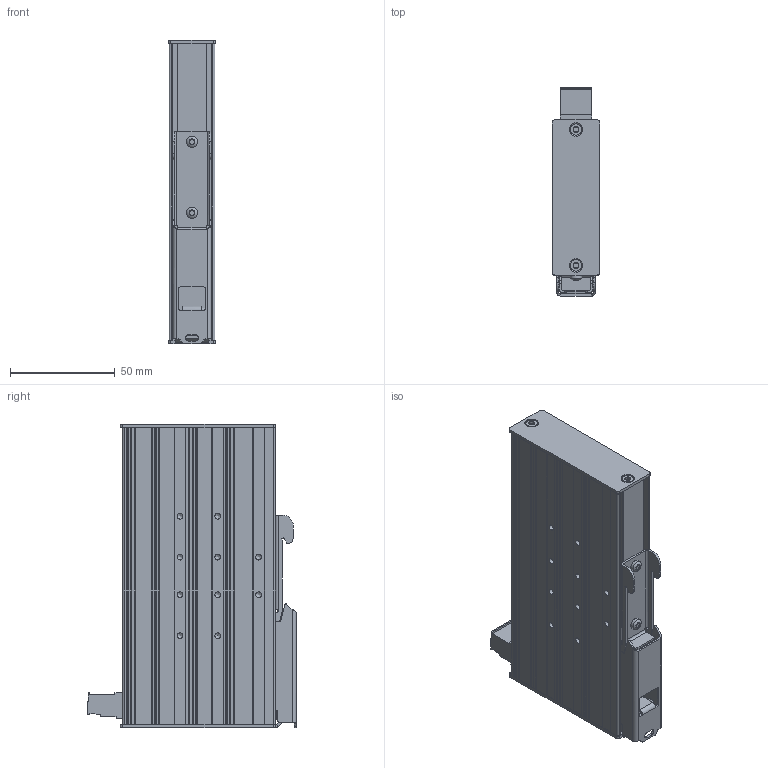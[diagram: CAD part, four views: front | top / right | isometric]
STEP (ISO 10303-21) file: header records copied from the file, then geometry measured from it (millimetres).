
FILE_DESCRIPTION(('TFLEX Exchange Step'),'2;1');
FILE_NAME('TZCA21160XB_NITE-RS8-1100.stp', '2019-08-12T10:52:25+02:00',('User'),('Unknown organisation'),'TFLEX Exchange 2019.0','T-FLEX CAD','Unknown authorisation');
FILE_SCHEMA( ('AUTOMOTIVE_DESIGN { 1 0 10303 214 1 1 1 1 }') );
Length unit declared in the file: millimetre
Products named in the file (1): TZCA21160XB_NITE-RS8-1100
Bounding box: 22.5 x 99.7 x 145.04 mm (x, y, z)
Volume: 220552.2 mm3; surface area: 56664.1 mm2
Topology: 2 solids, 12 shells, 3059 faces, 8624 edges, 5655 vertices
Faces by surface type: plane 1212, bspline 1073, cylinder 518, cone 227, torus 22, extrusion 5, sphere 2
Full cylindrical faces by diameter (mm): 0.5 x64, 1.2 x11, 1.3 x3, 2.75 x10, 2.85 x8, 3 x7, 3.2 x4, 3.75 x3, 3.95 x3, 5.5 x10, 6 x4
Entity records: 106166 total; most frequent: CARTESIAN_POINT 32262, ORIENTED_EDGE 17100, DIRECTION 11807, EDGE_CURVE 8550, VERTEX_POINT 5655, VECTOR 4943, LINE 4938, AXIS2_PLACEMENT_3D 3432
